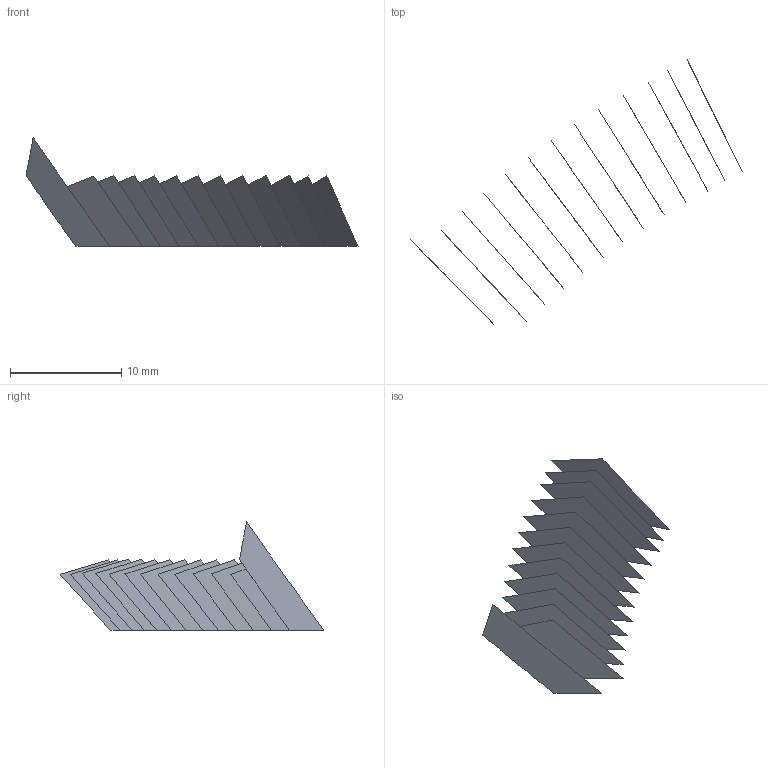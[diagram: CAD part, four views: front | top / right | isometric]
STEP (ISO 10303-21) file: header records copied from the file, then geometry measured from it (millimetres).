
FILE_DESCRIPTION(('FreeCAD Model'),'2;1');
FILE_NAME('Open CASCADE Shape Model','2022-05-21T09:28:00',('FreeCAD'),( 'FreeCAD'),'Open CASCADE STEP processor 7.5','FreeCAD','Unknown');
FILE_SCHEMA(('AUTOMOTIVE_DESIGN { 1 0 10303 214 1 1 1 1 }'));
Length unit declared in the file: millimetre
Products named in the file (14): Open CASCADE STEP translator 7.5 7; Open CASCADE STEP translator 7.5 7.1; Open CASCADE STEP translator 7.5 7.2; Open CASCADE STEP translator 7.5 7.3; Open CASCADE STEP translator 7.5 7.4; Open CASCADE STEP translator 7.5 7.5; Open CASCADE STEP translator 7.5 7.6; Open CASCADE STEP translator 7.5 7.7; Open CASCADE STEP translator 7.5 7.8; Open CASCADE STEP translator 7.5 7.9; Open CASCADE STEP translator 7.5 7.10; Open CASCADE STEP translator 7.5 7.11; Open CASCADE STEP translator 7.5 7.12; Open CASCADE STEP translator 7.5 7.13
Assembly tree (13 placements, depth 2):
  Open CASCADE STEP translator 7.5 7
    Open CASCADE STEP translator 7.5 7.1
    Open CASCADE STEP translator 7.5 7.2
    Open CASCADE STEP translator 7.5 7.3
    Open CASCADE STEP translator 7.5 7.4
    Open CASCADE STEP translator 7.5 7.5
    Open CASCADE STEP translator 7.5 7.6
    Open CASCADE STEP translator 7.5 7.7
    Open CASCADE STEP translator 7.5 7.8
    Open CASCADE STEP translator 7.5 7.9
    Open CASCADE STEP translator 7.5 7.10
    Open CASCADE STEP translator 7.5 7.11
    Open CASCADE STEP translator 7.5 7.12
    Open CASCADE STEP translator 7.5 7.13
Bounding box: 29.86 x 23.74 x 9.78 mm (x, y, z)
Surface area: 452.8 mm2 (no closed solid volume)
Topology: 0 solids, 13 shells, 13 faces, 125 edges, 125 vertices
Faces by surface type: bspline 13
Entity records: 2005 total; most frequent: CARTESIAN_POINT 691, B_SPLINE_CURVE_WITH_KNOTS 250, ORIENTED_EDGE 125, EDGE_CURVE 125, VERTEX_POINT 125, SURFACE_CURVE 125, PCURVE 125, DEFINITIONAL_REPRESENTATION 125
